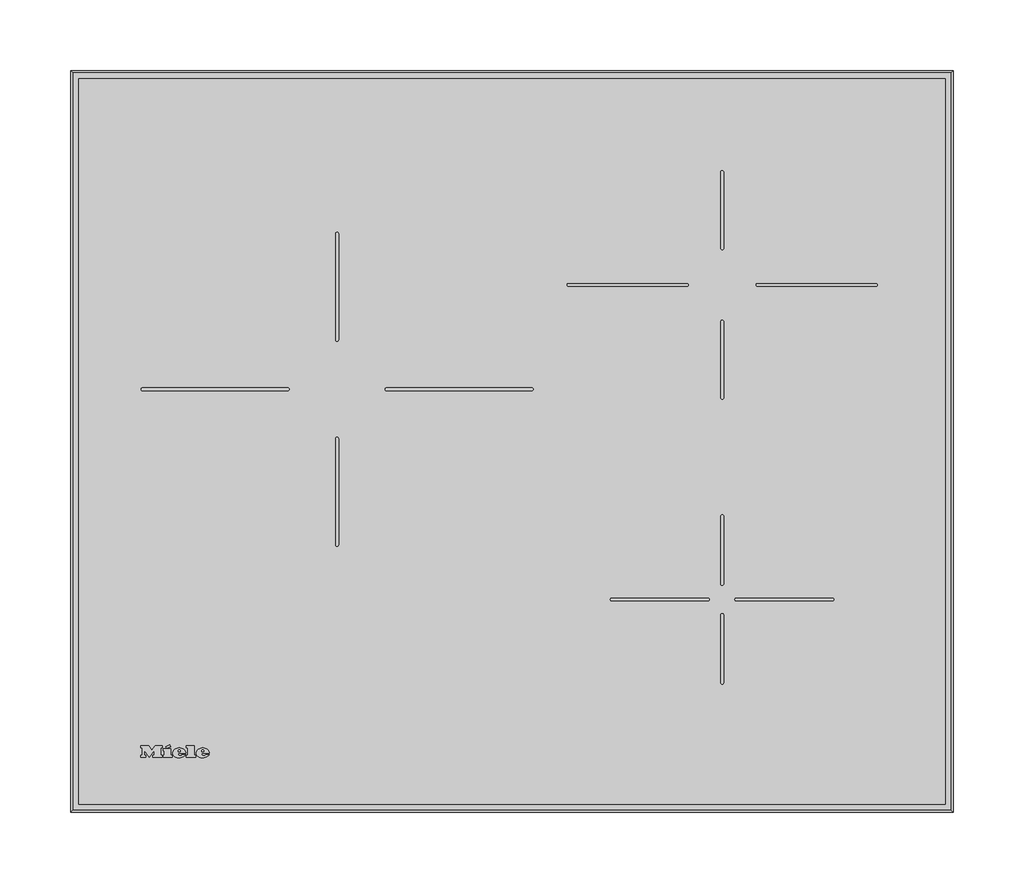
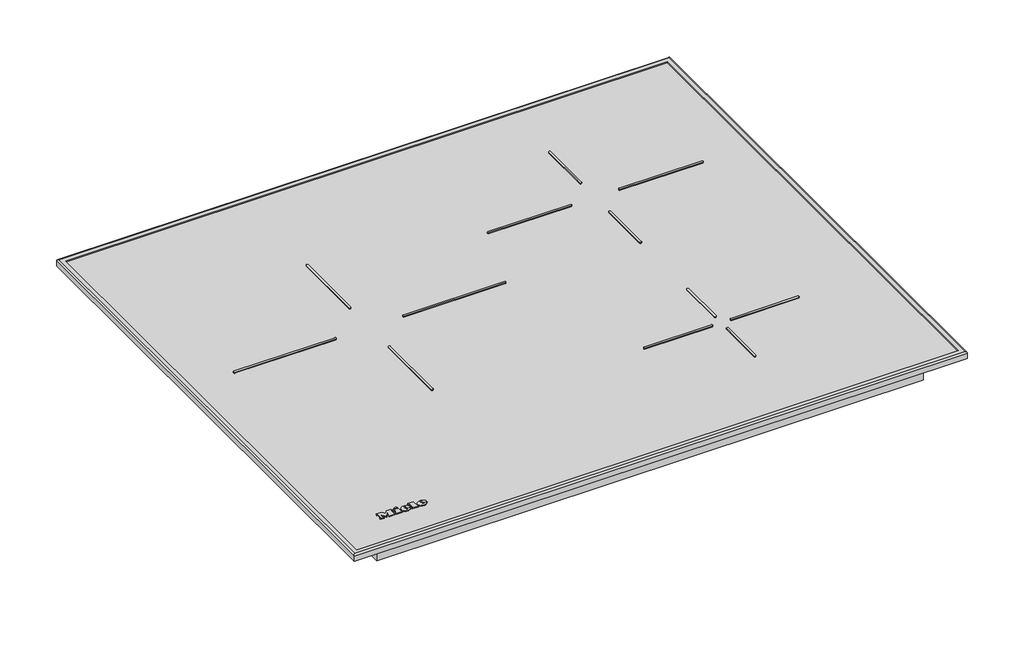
# Not in any storey: 1 proxy.
"""IFC4 building model written with IfcOpenShell, lengths in millimetres."""

import ifcopenshell
import ifcopenshell.guid

model = None  # the IFC model being written
_history = None  # IfcOwnerHistory: only IFC2X3 demands one
_inside = {}  # id of a spatial element -> (the spatial element, [elements in it])
_under = {}  # id of a project, library or spatial element -> (it, [spatial elements below it])
_declared = {}  # id of a project -> (the project, [libraries it declares])
_typed = {}  # id of a type object -> (the type object, [elements of that type])
_made_of = {}  # id of a material, layer set ... -> (it, [elements and type objects made of it])


def new_model(schema):
    """Start an empty IFC model of exactly this schema.

    Asked for "IFC4X3", IfcOpenShell would pick the latest addendum, in which some entities
    have other attributes; the version numbers below select the first issue.
    IFC2X3 requires an IfcOwnerHistory on every rooted entity: one is made here for all.
    """
    global model, _history
    if schema == "IFC4X3":
        model = ifcopenshell.file(schema_version=(4, 3, 0, 0))
    else:
        model = ifcopenshell.file(schema=schema)
    _inside.clear()
    _under.clear()
    _declared.clear()
    _typed.clear()
    _made_of.clear()
    _history = None
    if model.schema == "IFC2X3":
        org = make("IfcOrganization", Name="unknown")
        user = make(
            "IfcPersonAndOrganization",
            ThePerson=make("IfcPerson", FamilyName="unknown"),
            TheOrganization=org,
        )
        app = make(
            "IfcApplication",
            ApplicationDeveloper=org,
            Version="unknown",
            ApplicationFullName="unknown",
            ApplicationIdentifier="unknown",
        )
        _history = make(
            "IfcOwnerHistory",
            OwningUser=user,
            OwningApplication=app,
            ChangeAction="ADDED",
            CreationDate=0,
        )
    return model


def make(cls, **values):
    """One entity of the class cls with the attributes given. An attribute that is None is left unset."""
    return model.create_entity(
        cls, **{name: value for name, value in values.items() if value is not None}
    )


def rooted(cls, **values):
    """An entity with a GlobalId (a new one), such as an element, a storey or a relation."""
    return make(cls, GlobalId=ifcopenshell.guid.new(), OwnerHistory=_history, **values)


def si_unit(unit_type, name, prefix=None):
    """IfcSIUnit, for example si_unit("LENGTHUNIT", "METRE", prefix="MILLI")."""
    return make("IfcSIUnit", UnitType=unit_type, Prefix=prefix, Name=name)


def assignment(units):
    """IfcUnitAssignment: the units of a project."""
    return None if units is None else make("IfcUnitAssignment", Units=units)


def point(xyz):
    """IfcCartesianPoint."""
    return None if xyz is None else make("IfcCartesianPoint", Coordinates=xyz)


def direction(xyz):
    """IfcDirection."""
    return None if xyz is None else make("IfcDirection", DirectionRatios=xyz)


def frame(location, z_axis=None, x_axis=None):
    """IfcAxis2Placement3D, a coordinate frame: its origin and axes. An axis left out is left unset."""
    return make(
        "IfcAxis2Placement3D",
        Location=point(location),
        Axis=direction(z_axis),
        RefDirection=direction(x_axis),
    )


def frame_2d(location, x_axis=None):
    """IfcAxis2Placement2D, a coordinate frame in the plane: its origin and x axis."""
    return make(
        "IfcAxis2Placement2D", Location=point(location), RefDirection=direction(x_axis)
    )


def origin():
    """The frame at (0, 0, 0) with its axes left unset."""
    return frame((0.0, 0.0, 0.0))


def origin_with_axes():
    """The frame at (0, 0, 0) with the z axis (0, 0, 1) and the x axis (1, 0, 0) written out."""
    return frame((0.0, 0.0, 0.0), z_axis=(0.0, 0.0, 1.0), x_axis=(1.0, 0.0, 0.0))


def place(relative_to, where):
    """IfcLocalPlacement: puts the frame where relative to a parent placement (None: the world)."""
    return make(
        "IfcLocalPlacement", PlacementRelTo=relative_to, RelativePlacement=where
    )


def context(
    kind, dimensions, precision=None, world=None, true_north=None, identifier=None
):
    """IfcGeometricRepresentationContext, for example the 3D "Model" context."""
    return make(
        "IfcGeometricRepresentationContext",
        ContextIdentifier=identifier,
        ContextType=kind,
        CoordinateSpaceDimension=dimensions,
        Precision=precision,
        WorldCoordinateSystem=world,
        TrueNorth=true_north,
    )


def project(units=None, contexts=None):
    """IfcProject with its units and contexts."""
    return rooted(
        "IfcProject",
        Name="project",
        RepresentationContexts=contexts,
        UnitsInContext=assignment(units),
    )


def spatial(cls, under=None, at=None, **own):
    """A site, building, storey or space (cls), placed at a placement, below another one or the project."""
    s = rooted(cls, ObjectPlacement=at, **own)
    if under is not None:
        _under.setdefault(under.id(), (under, []))[1].append(s)
    return s


def polyline(points):
    """IfcPolyline through the points."""
    return make("IfcPolyline", Points=[point(p) for p in points])


def circle_curve(where, radius):
    """IfcCircle in the frame where."""
    return make("IfcCircle", Position=where, Radius=radius)


def ellipse_curve(where, semi_axis1, semi_axis2):
    """IfcEllipse in the frame where."""
    return make(
        "IfcEllipse", Position=where, SemiAxis1=semi_axis1, SemiAxis2=semi_axis2
    )


def trimmed(basis, trim1, trim2, sense, master):
    """IfcTrimmedCurve: the piece of a basis curve between two trims."""
    return make(
        "IfcTrimmedCurve",
        BasisCurve=basis,
        Trim1=trim1,
        Trim2=trim2,
        SenseAgreement=sense,
        MasterRepresentation=master,
    )


def segment(curve, same_sense, transition):
    """IfcCompositeCurveSegment."""
    return make(
        "IfcCompositeCurveSegment",
        Transition=transition,
        SameSense=same_sense,
        ParentCurve=curve,
    )


def composite_curve(segments, self_intersect=None):
    """IfcCompositeCurve: segments joined end to end."""
    return make("IfcCompositeCurve", Segments=segments, SelfIntersect=self_intersect)


def outline(outer, holes=None, kind="AREA"):
    """IfcArbitraryClosedProfileDef: a profile drawn as a closed curve; with holes, ...WithVoids."""
    if holes is None:
        return make("IfcArbitraryClosedProfileDef", ProfileType=kind, OuterCurve=outer)
    return make(
        "IfcArbitraryProfileDefWithVoids",
        ProfileType=kind,
        OuterCurve=outer,
        InnerCurves=holes,
    )


def extrude(swept, where, along, depth):
    """IfcExtrudedAreaSolid: the profile swept, set in the frame where, extruded along a direction by depth."""
    return make(
        "IfcExtrudedAreaSolid",
        SweptArea=swept,
        Position=where,
        ExtrudedDirection=direction(along),
        Depth=depth,
    )


def shape(context_of_items, identifier, shape_type, items):
    """IfcShapeRepresentation: the items that make up one representation, for example the "Body"."""
    return make(
        "IfcShapeRepresentation",
        ContextOfItems=context_of_items,
        RepresentationIdentifier=identifier,
        RepresentationType=shape_type,
        Items=items,
    )


def source(mapping_origin, context_of_items, identifier, shape_type, items):
    """IfcRepresentationMap: a shape defined once, which mapped items show again and again."""
    return make(
        "IfcRepresentationMap",
        MappingOrigin=mapping_origin,
        MappedRepresentation=shape(context_of_items, identifier, shape_type, items),
    )


def transform(
    local_origin,
    x_axis=None,
    y_axis=None,
    z_axis=None,
    scale=None,
    scale2=None,
    scale3=None,
    uniform=True,
):
    """IfcCartesianTransformationOperator3D, or its non-uniform kind. x_axis, y_axis, z_axis: its Axis1, 2, 3."""
    if uniform:
        return make(
            "IfcCartesianTransformationOperator3D",
            Axis1=direction(x_axis),
            Axis2=direction(y_axis),
            LocalOrigin=point(local_origin),
            Scale=scale,
            Axis3=direction(z_axis),
        )
    return make(
        "IfcCartesianTransformationOperator3DnonUniform",
        Axis1=direction(x_axis),
        Axis2=direction(y_axis),
        LocalOrigin=point(local_origin),
        Scale=scale,
        Axis3=direction(z_axis),
        Scale2=scale2,
        Scale3=scale3,
    )


def mapped(mapping_source, mapping_target):
    """IfcMappedItem: shows the shape of a source again, moved by a transform."""
    return make(
        "IfcMappedItem", MappingSource=mapping_source, MappingTarget=mapping_target
    )


def made_of(thing, what):
    """Note that an element or type object is made of a material, layer set ...; save() writes the relation."""
    if what is not None:
        _made_of.setdefault(what.id(), (what, []))[1].append(thing)
    return thing


def element(
    cls,
    number,
    at=None,
    inside=None,
    cuts=None,
    type_object=None,
    material=None,
    context=None,
    identifier="Body",
    shape_type=None,
    held_by="IfcProductDefinitionShape",
    body=None,
    shapes=None,
    **own,
):
    """One element of the class cls, such as IfcWall. Its Tag is "e" and its number.

    at: its placement. inside: the storey or other place that contains it. cuts: it is an
    opening in that element (IfcRelVoidsElement). A single representation is given by context,
    identifier, shape_type and body (its items); several are given by shapes. held_by: the class
    of the entity that holds the representations. save() writes the other relations.
    """
    e = rooted(cls, Tag="e%d" % number, ObjectPlacement=at, **own)
    if body is not None:
        shapes = [shape(context, identifier, shape_type, body)]
    if shapes is not None:
        e.Representation = make(held_by, Representations=shapes)
    if inside is not None:
        _inside.setdefault(inside.id(), (inside, []))[1].append(e)
    if cuts is not None:
        rooted(
            "IfcRelVoidsElement", RelatingBuildingElement=cuts, RelatedOpeningElement=e
        )
    if type_object is not None:
        _typed.setdefault(type_object.id(), (type_object, []))[1].append(e)
    return made_of(e, material)


def aggregate(whole, parts):
    """IfcRelAggregates: a whole, such as a stair, and the parts it consists of."""
    return rooted("IfcRelAggregates", RelatingObject=whole, RelatedObjects=parts)


def save(model, path):
    """Write the relations noted so far, then the file.

    IfcRelAggregates (storeys below a building ...), IfcRelContainedInSpatialStructure (elements
    in a storey), IfcRelDefinesByType, IfcRelAssociatesMaterial and IfcRelDeclares: one each for
    every whole, place, type object, material and project.
    """
    for whole, parts in _under.values():
        aggregate(whole, parts)
    for where, things in _inside.values():
        rooted(
            "IfcRelContainedInSpatialStructure",
            RelatedElements=things,
            RelatingStructure=where,
        )
    for kind, things in _typed.values():
        rooted("IfcRelDefinesByType", RelatedObjects=things, RelatingType=kind)
    for what, things in _made_of.values():
        rooted("IfcRelAssociatesMaterial", RelatedObjects=things, RelatingMaterial=what)
    for by, libraries in _declared.values():
        rooted("IfcRelDeclares", RelatingContext=by, RelatedDefinitions=libraries)
    model.write(path)


def plane_surface(at):
    """IfcPlane: the flat surface through the origin of the frame at, square to its z axis."""
    return make("IfcPlane", Position=at)


def cylinder_surface(at, radius):
    """IfcCylindricalSurface: all points at the distance radius from the z axis of the frame at."""
    return make("IfcCylindricalSurface", Position=at, Radius=radius)


def revolved_surface(curve, axis_point, axis_direction):
    """IfcSurfaceOfRevolution: the curve turned about the line through axis_point along axis_direction."""
    return make(
        "IfcSurfaceOfRevolution",
        SweptCurve=make("IfcArbitraryOpenProfileDef", ProfileType="CURVE", Curve=curve),
        AxisPosition=make("IfcAxis1Placement", Location=point(axis_point), Axis=direction(axis_direction)),
    )


def extruded_surface(curve, direction_of_extrusion, depth):
    """IfcSurfaceOfLinearExtrusion: the curve pushed along a direction by depth."""
    return make(
        "IfcSurfaceOfLinearExtrusion",
        SweptCurve=make("IfcArbitraryOpenProfileDef", ProfileType="CURVE", Curve=curve),
        ExtrudedDirection=direction(direction_of_extrusion),
        Depth=depth,
    )


def advanced_brep(points, edges, surfaces, faces):
    """IfcAdvancedBrep: a solid bounded by faces that lie on surfaces and meet in shared edges.

    An edge is (start, end): straight between two places in points (the first is 0);
    or (start, end, curve); or (start, end, curve, False) where it runs against its curve.
    A face is (place in surfaces, loops), or (place, loops, False) where it looks against
    its surface's normal. A loop lists edges by number (the first is 1), with a minus sign
    where the edge is run from its end to its start. The first loop is the outer one.
    """
    corners = [point(p) for p in points]
    vertices = [make("IfcVertexPoint", VertexGeometry=c) for c in corners]
    made = []
    for start, end, *more in edges:
        made.append(
            make(
                "IfcEdgeCurve",
                EdgeStart=vertices[start],
                EdgeEnd=vertices[end],
                EdgeGeometry=more[0] if more else make("IfcPolyline", Points=[corners[start], corners[end]]),
                SameSense=more[1] if len(more) > 1 else True,
            )
        )
    hull = []
    for where, loops, *sense in faces:
        bounds = []
        for j, loop in enumerate(loops):
            ring = [make("IfcOrientedEdge", EdgeElement=made[abs(k) - 1], Orientation=k > 0) for k in loop]
            bounds.append(
                make(
                    "IfcFaceOuterBound" if j == 0 else "IfcFaceBound",
                    Bound=make("IfcEdgeLoop", EdgeList=ring),
                    Orientation=True,
                )
            )
        hull.append(make("IfcAdvancedFace", Bounds=bounds, FaceSurface=surfaces[where], SameSense=sense[0] if sense else True))
    return make("IfcAdvancedBrep", Outer=make("IfcClosedShell", CfsFaces=hull))


def specialty_equipment_f053b758(model_context):
    return source(origin(), model_context, "Body", "SolidModel", [
        advanced_brep(
        [(-219.911984, 41.066, 5.0000007), (-219.911984, 41.874, 5.0000007), (-214.559984, 41.874, 5.0000007), (-223.871984, 41.874, 5.0000007), (-221.671984, 39.17, 5.0000007), (-214.695984, 41.066, 5.0000007), (-217.111984, 41.066, 5.0000007), (-219.015984, 40.17, 5.0000007), (-219.911984, 42.898, 5.0000007), (-219.911984, 43.77, 5.0000007), (-218.543984, 43.77, 5.0000007), (-218.543984, 42.898, 5.0000007), (-219.911984, 41.066, 4.0000007), (-219.015984, 40.17, 4.0000007), (-217.111984, 41.066, 4.0000007), (-214.695984, 41.066, 4.0000007), (-221.671984, 39.17, 4.0000007), (-223.871984, 41.874, 4.0000007), (-214.559984, 41.874, 4.0000007), (-219.911984, 41.874, 4.0000007), (-219.911984, 42.898, 4.0000007), (-218.543984, 42.898, 4.0000007), (-218.543984, 43.77, 4.0000007), (-219.911984, 43.77, 4.0000007)],
        [
            (0, 1),
            (1, 2),
            (2, 3, ellipse_curve(frame((-219.215984, 41.874, 5.0000007), z_axis=(0.0, 0.0, 1.0), x_axis=(-1.0, 0.0, 0.0)), 4.656, 3.848)),
            (3, 4, circle_curve(frame((-220.7759404, 42.146, 5.0000007), z_axis=(0.0, 0.0, 1.0), x_axis=(0.0, -1.0, 0.0)), 3.1079688)),
            (4, 5, circle_curve(frame((-219.3091904, 44.258, 5.0000007), z_axis=(0.0, 0.0, 1.0), x_axis=(0.0, -1.0, 0.0)), 5.6098607)),
            (5, 6),
            (6, 7, circle_curve(frame((-218.6249252, 41.81, 5.0000007), z_axis=(0.0, 0.0, -1.0), x_axis=(0.0, -1.0, 0.0)), 1.6859795)),
            (7, 0, circle_curve(frame((-219.015984, 41.066, 5.0000007), z_axis=(0.0, 0.0, -1.0), x_axis=(0.0, -1.0, 0.0)), 0.896)),
            (8, 9),
            (9, 10, circle_curve(frame((-219.227984, 43.77, 5.0000007), z_axis=(0.0, 0.0, -1.0), x_axis=(0.0, -1.0, 0.0)), 0.684)),
            (10, 11),
            (11, 8),
            (12, 13, circle_curve(frame((-219.015984, 41.066, 4.0000007), z_axis=(0.0, 0.0, 1.0), x_axis=(0.0, -1.0, 0.0)), 0.896)),
            (13, 14, circle_curve(frame((-218.6249252, 41.81, 4.0000007), z_axis=(0.0, 0.0, 1.0), x_axis=(0.0, -1.0, 0.0)), 1.6859795)),
            (14, 15),
            (15, 16, circle_curve(frame((-219.3091904, 44.258, 4.0000007), z_axis=(0.0, 0.0, -1.0), x_axis=(0.0, -1.0, 0.0)), 5.6098607)),
            (16, 17, circle_curve(frame((-220.7759404, 42.146, 4.0000007), z_axis=(0.0, 0.0, -1.0), x_axis=(0.0, -1.0, 0.0)), 3.1079688)),
            (17, 18, ellipse_curve(frame((-219.215984, 41.874, 4.0000007), z_axis=(0.0, 0.0, -1.0), x_axis=(-1.0, 0.0, 0.0)), 4.656, 3.848)),
            (18, 19),
            (19, 12),
            (20, 21),
            (21, 22),
            (22, 23, circle_curve(frame((-219.227984, 43.77, 4.0000007), z_axis=(0.0, 0.0, 1.0), x_axis=(0.0, -1.0, 0.0)), 0.684)),
            (23, 20),
            (0, 12),
            (19, 1),
            (18, 2),
            (5, 15),
            (14, 6),
            (17, 3),
            (13, 7),
            (16, 4),
            (8, 20),
            (23, 9),
            (22, 10),
            (21, 11),
        ],
        [
            plane_surface(frame((-219.911984, 41.874, 5.0000007), z_axis=(0.0, 0.0, 1.0), x_axis=(0.0, 1.0, 0.0))),
            plane_surface(frame((-219.911984, 41.874, 4.0000007), z_axis=(0.0, 0.0, -1.0), x_axis=(0.0, -1.0, 0.0))),
            plane_surface(frame((-219.911984, 41.066, 5.0000007), z_axis=(1.0, 0.0, 0.0), x_axis=(0.0, 0.0, -1.0))),
            plane_surface(frame((-219.911984, 41.874, 5.0000007), z_axis=(0.0, -1.0, 0.0), x_axis=(0.0, 0.0, -1.0))),
            plane_surface(frame((-214.695984, 41.066, 5.0000007), z_axis=(0.0, 1.0, 0.0), x_axis=(0.0, 0.0, -1.0))),
            extruded_surface(trimmed(ellipse_curve(frame((-219.215984, 41.874, 3.0000007), z_axis=(0.0, 0.0, 1.0), x_axis=(-1.0, 0.0, 0.0)), 4.656, 3.848), [point((-214.559984, 41.874, 3.0000007))], [point((-223.871984, 41.874, 3.0000007))], True, "CARTESIAN"), (0.0, 0.0, 1.0), 1.0),
            revolved_surface(polyline([(-218.6249252, 40.1240205, 4.0000007), (-218.6249252, 40.1240205, 5.0000007)]), (-218.6249252, 41.81, 4.0000007), (0.0, 0.0, -1.0)),
            revolved_surface(polyline([(-219.015984, 40.17, 4.0000007), (-219.015984, 40.17, 5.0000007)]), (-219.015984, 41.066, 4.0000007), (0.0, 0.0, -1.0)),
            cylinder_surface(frame((-220.7759404, 42.146, 4.0000007), z_axis=(0.0, 0.0, 1.0), x_axis=(0.0, -1.0, 0.0)), 3.1079688),
            cylinder_surface(frame((-219.3091904, 44.258, 4.0000007), z_axis=(0.0, 0.0, 1.0), x_axis=(0.0, -1.0, 0.0)), 5.6098607),
            plane_surface(frame((-219.911984, 42.898, 5.0000007), z_axis=(1.0, 0.0, 0.0), x_axis=(0.0, 0.0, -1.0))),
            revolved_surface(polyline([(-219.227984, 43.086000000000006, 4.0000007), (-219.227984, 43.086000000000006, 5.0000007)]), (-219.227984, 43.77, 4.0000007), (0.0, 0.0, -1.0)),
            plane_surface(frame((-218.543984, 43.77, 5.0000007), z_axis=(-1.0, 0.0, 0.0), x_axis=(0.0, 0.0, -1.0))),
            plane_surface(frame((-218.543984, 42.898, 5.0000007), z_axis=(0.0, 1.0, 0.0), x_axis=(0.0, 0.0, -1.0))),
        ],
        [
            (0, [[1, 2, 3, 4, 5, 6, 7, 8], [9, 10, 11, 12]]),
            (1, [[13, 14, 15, 16, 17, 18, 19, 20], [21, 22, 23, 24]]),
            (2, [[-1, 25, -20, 26]]),
            (3, [[-2, -26, -19, 27]]),
            (4, [[-6, 28, -15, 29]]),
            (5, [[-3, -27, -18, 30]]),
            (6, [[-7, -29, -14, 31]]),
            (7, [[-8, -31, -13, -25]]),
            (8, [[-4, -30, -17, 32]]),
            (9, [[-5, -32, -16, -28]]),
            (10, [[-9, 33, -24, 34]]),
            (11, [[-10, -34, -23, 35]]),
            (12, [[-11, -35, -22, 36]]),
            (13, [[-12, -36, -21, -33]]),
        ],
    ),
        advanced_brep(
        [(-236.607984, 41.066, 5.0000007), (-236.607984, 41.874, 5.0000007), (-231.255984, 41.874, 5.0000007), (-240.567984, 41.874, 5.0000007), (-238.367984, 39.17, 5.0000007), (-231.391984, 41.066, 5.0000007), (-233.807984, 41.066, 5.0000007), (-235.711984, 40.17, 5.0000007), (-236.607984, 42.898, 5.0000007), (-236.607984, 43.77, 5.0000007), (-235.239984, 43.77, 5.0000007), (-235.239984, 42.898, 5.0000007), (-236.607984, 41.066, 4.0000007), (-235.711984, 40.17, 4.0000007), (-233.807984, 41.066, 4.0000007), (-231.391984, 41.066, 4.0000007), (-238.367984, 39.17, 4.0000007), (-240.567984, 41.874, 4.0000007), (-231.255984, 41.874, 4.0000007), (-236.607984, 41.874, 4.0000007), (-236.607984, 42.898, 4.0000007), (-235.239984, 42.898, 4.0000007), (-235.239984, 43.77, 4.0000007), (-236.607984, 43.77, 4.0000007)],
        [
            (0, 1),
            (1, 2),
            (2, 3, ellipse_curve(frame((-235.911984, 41.874, 5.0000007), z_axis=(0.0, 0.0, 1.0), x_axis=(-1.0, 0.0, 0.0)), 4.656, 3.848)),
            (3, 4, circle_curve(frame((-237.4719404, 42.146, 5.0000007), z_axis=(0.0, 0.0, 1.0), x_axis=(0.0, -1.0, 0.0)), 3.1079688)),
            (4, 5, circle_curve(frame((-236.0051904, 44.258, 5.0000007), z_axis=(0.0, 0.0, 1.0), x_axis=(0.0, -1.0, 0.0)), 5.6098607)),
            (5, 6),
            (6, 7, circle_curve(frame((-235.3209252, 41.81, 5.0000007), z_axis=(0.0, 0.0, -1.0), x_axis=(0.0, -1.0, 0.0)), 1.6859795)),
            (7, 0, circle_curve(frame((-235.711984, 41.066, 5.0000007), z_axis=(0.0, 0.0, -1.0), x_axis=(0.0, -1.0, 0.0)), 0.896)),
            (8, 9),
            (9, 10, circle_curve(frame((-235.923984, 43.77, 5.0000007), z_axis=(0.0, 0.0, -1.0), x_axis=(0.0, -1.0, 0.0)), 0.684)),
            (10, 11),
            (11, 8),
            (12, 13, circle_curve(frame((-235.711984, 41.066, 4.0000007), z_axis=(0.0, 0.0, 1.0), x_axis=(0.0, -1.0, 0.0)), 0.896)),
            (13, 14, circle_curve(frame((-235.3209252, 41.81, 4.0000007), z_axis=(0.0, 0.0, 1.0), x_axis=(0.0, -1.0, 0.0)), 1.6859795)),
            (14, 15),
            (15, 16, circle_curve(frame((-236.0051904, 44.258, 4.0000007), z_axis=(0.0, 0.0, -1.0), x_axis=(0.0, -1.0, 0.0)), 5.6098607)),
            (16, 17, circle_curve(frame((-237.4719404, 42.146, 4.0000007), z_axis=(0.0, 0.0, -1.0), x_axis=(0.0, -1.0, 0.0)), 3.1079688)),
            (17, 18, ellipse_curve(frame((-235.911984, 41.874, 4.0000007), z_axis=(0.0, 0.0, -1.0), x_axis=(-1.0, 0.0, 0.0)), 4.656, 3.848)),
            (18, 19),
            (19, 12),
            (20, 21),
            (21, 22),
            (22, 23, circle_curve(frame((-235.923984, 43.77, 4.0000007), z_axis=(0.0, 0.0, 1.0), x_axis=(0.0, -1.0, 0.0)), 0.684)),
            (23, 20),
            (0, 12),
            (19, 1),
            (18, 2),
            (5, 15),
            (14, 6),
            (17, 3),
            (13, 7),
            (16, 4),
            (8, 20),
            (23, 9),
            (22, 10),
            (21, 11),
        ],
        [
            plane_surface(frame((-236.607984, 41.874, 5.0000007), z_axis=(0.0, 0.0, 1.0), x_axis=(0.0, 1.0, 0.0))),
            plane_surface(frame((-236.607984, 41.874, 4.0000007), z_axis=(0.0, 0.0, -1.0), x_axis=(0.0, -1.0, 0.0))),
            plane_surface(frame((-236.607984, 41.066, 5.0000007), z_axis=(1.0, 0.0, 0.0), x_axis=(0.0, 0.0, -1.0))),
            plane_surface(frame((-236.607984, 41.874, 5.0000007), z_axis=(0.0, -1.0, 0.0), x_axis=(0.0, 0.0, -1.0))),
            plane_surface(frame((-231.391984, 41.066, 5.0000007), z_axis=(0.0, 1.0, 0.0), x_axis=(0.0, 0.0, -1.0))),
            extruded_surface(trimmed(ellipse_curve(frame((-235.911984, 41.874, 3.0000007), z_axis=(0.0, 0.0, 1.0), x_axis=(-1.0, 0.0, 0.0)), 4.656, 3.848), [point((-231.255984, 41.874, 3.0000007))], [point((-240.567984, 41.874, 3.0000007))], True, "CARTESIAN"), (0.0, 0.0, 1.0), 1.0),
            revolved_surface(polyline([(-235.3209252, 40.1240205, 4.0000007), (-235.3209252, 40.1240205, 5.0000007)]), (-235.3209252, 41.81, 4.0000007), (0.0, 0.0, -1.0)),
            revolved_surface(polyline([(-235.711984, 40.17, 4.0000007), (-235.711984, 40.17, 5.0000007)]), (-235.711984, 41.066, 4.0000007), (0.0, 0.0, -1.0)),
            cylinder_surface(frame((-237.4719404, 42.146, 4.0000007), z_axis=(0.0, 0.0, 1.0), x_axis=(0.0, -1.0, 0.0)), 3.1079688),
            cylinder_surface(frame((-236.0051904, 44.258, 4.0000007), z_axis=(0.0, 0.0, 1.0), x_axis=(0.0, -1.0, 0.0)), 5.6098607),
            plane_surface(frame((-236.607984, 42.898, 5.0000007), z_axis=(1.0, 0.0, 0.0), x_axis=(0.0, 0.0, -1.0))),
            revolved_surface(polyline([(-235.923984, 43.086000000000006, 4.0000007), (-235.923984, 43.086000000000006, 5.0000007)]), (-235.923984, 43.77, 4.0000007), (0.0, 0.0, -1.0)),
            plane_surface(frame((-235.239984, 43.77, 5.0000007), z_axis=(-1.0, 0.0, 0.0), x_axis=(0.0, 0.0, -1.0))),
            plane_surface(frame((-235.239984, 42.898, 5.0000007), z_axis=(0.0, 1.0, 0.0), x_axis=(0.0, 0.0, -1.0))),
        ],
        [
            (0, [[1, 2, 3, 4, 5, 6, 7, 8], [9, 10, 11, 12]]),
            (1, [[13, 14, 15, 16, 17, 18, 19, 20], [21, 22, 23, 24]]),
            (2, [[-1, 25, -20, 26]]),
            (3, [[-2, -26, -19, 27]]),
            (4, [[-6, 28, -15, 29]]),
            (5, [[-3, -27, -18, 30]]),
            (6, [[-7, -29, -14, 31]]),
            (7, [[-8, -31, -13, -25]]),
            (8, [[-4, -30, -17, 32]]),
            (9, [[-5, -32, -16, -28]]),
            (10, [[-9, 33, -24, 34]]),
            (11, [[-10, -34, -23, 35]]),
            (12, [[-11, -35, -22, 36]]),
            (13, [[-12, -36, -21, -33]]),
        ],
    ),
        extrude(outline(polyline([(-245.351984, 46.698), (-242.631984, 47.962), (-242.031984, 46.666), (-244.743984, 45.402), (-245.351984, 46.698)])), frame((0.0, 0.0, 4.0000007), z_axis=(0.0, 0.0, 1.0), x_axis=(1.0, 0.0, 0.0)), (0.0, 0.0, 1.0), 1.0),
        extrude(outline(polyline([(-247.327984, 45.226), (-241.943984, 45.226), (-241.943984, 40.514), (-241.015984, 40.514), (-241.015984, 39.17), (-247.327984, 39.17), (-247.327984, 40.514), (-246.375984, 40.514), (-246.375984, 43.794), (-247.327984, 43.794), (-247.327984, 45.226)])), frame((0.0, 0.0, 4.0000007), z_axis=(0.0, 0.0, 1.0), x_axis=(1.0, 0.0, 0.0)), (0.0, 0.0, 1.0), 1.0),
        extrude(outline(polyline([(-230.807984, 45.866), (-230.807984, 47.17), (-225.303984, 47.17), (-225.303984, 40.514), (-224.319984, 40.514), (-224.319984, 39.17), (-230.807984, 39.17), (-230.807984, 40.514), (-229.847984, 40.514), (-229.847984, 45.866), (-230.807984, 45.866)])), frame((0.0, 0.0, 4.0000007), z_axis=(0.0, 0.0, 1.0), x_axis=(1.0, 0.0, 0.0)), (0.0, 0.0, 1.0), 1.0),
        extrude(outline(polyline([(-263.271984, 45.866), (-263.271984, 47.17), (-257.695984, 47.17), (-255.351984, 44.17), (-253.015984, 47.17), (-248.143984, 47.17), (-248.143984, 45.866), (-249.159984, 45.866), (-249.159984, 40.514), (-248.143984, 40.514), (-248.143984, 39.17), (-254.527984, 39.17), (-254.527984, 40.514), (-253.543984, 40.514), (-253.543984, 43.9852223), (-257.135984, 39.17), (-260.711984, 43.9171247), (-260.711984, 40.514), (-259.751984, 40.514), (-259.751984, 39.17), (-263.271984, 39.17), (-263.271984, 40.514), (-262.303984, 40.514), (-262.303984, 45.866), (-263.271984, 45.866)])), frame((0.0, 0.0, 4.0000007), z_axis=(0.0, 0.0, 1.0), x_axis=(1.0, 0.0, 0.0)), (0.0, 0.0, 1.0), 1.0),
        extrude(outline(composite_curve([segment(polyline([(174.0, 375.0), (258.0, 375.0)]), True, "CONTINUOUS"), segment(trimmed(circle_curve(frame_2d((258.0, 374.0)), 1.0), [point((258.0, 375.0))], [point((258.0, 373.0))], False, "CARTESIAN"), True, "CONTINUOUS"), segment(polyline([(258.0, 373.0), (174.0, 373.0)]), True, "CONTINUOUS"), segment(trimmed(circle_curve(frame_2d((174.0, 374.0)), 1.0), [point((174.0, 373.0))], [point((174.0, 375.0))], False, "CARTESIAN"), True, "CONTINUOUS")], self_intersect=False)), frame((0.0, 0.0, 4.0000007), z_axis=(0.0, 0.0, 1.0), x_axis=(1.0, 0.0, 0.0)), (0.0, 0.0, 1.0), 1.0),
        extrude(outline(composite_curve([segment(trimmed(circle_curve(frame_2d((149.0, 454.0164244)), 1.0), [point((148.0, 454.0164244))], [point((150.0, 454.0164244))], False, "CARTESIAN"), True, "CONTINUOUS"), segment(polyline([(150.0, 454.0164244), (150.0, 400.0)]), True, "CONTINUOUS"), segment(trimmed(circle_curve(frame_2d((149.0, 400.0)), 1.0), [point((150.0, 400.0))], [point((148.0, 400.0))], False, "CARTESIAN"), True, "CONTINUOUS"), segment(polyline([(148.0, 400.0), (148.0, 454.0164244)]), True, "CONTINUOUS")], self_intersect=False)), frame((0.0, 0.0, 4.0000007), z_axis=(0.0, 0.0, 1.0), x_axis=(1.0, 0.0, 0.0)), (0.0, 0.0, 1.0), 1.0),
        extrude(outline(composite_curve([segment(trimmed(circle_curve(frame_2d((159.0, 151.0)), 1.0), [point((159.0, 150.0))], [point((159.0, 152.0))], False, "CARTESIAN"), True, "CONTINUOUS"), segment(polyline([(159.0, 152.0), (227.2574779, 152.0)]), True, "CONTINUOUS"), segment(trimmed(circle_curve(frame_2d((227.2574779, 151.0)), 1.0), [point((227.2574779, 152.0))], [point((227.2574779, 150.0))], False, "CARTESIAN"), True, "CONTINUOUS"), segment(polyline([(227.2574779, 150.0), (159.0, 150.0)]), True, "CONTINUOUS")], self_intersect=False)), frame((0.0, 0.0, 4.0000007), z_axis=(0.0, 0.0, 1.0), x_axis=(1.0, 0.0, 0.0)), (0.0, 0.0, 1.0), 1.0),
        extrude(outline(composite_curve([segment(polyline([(148.0, 92.0), (148.0, 140.0)]), True, "CONTINUOUS"), segment(trimmed(circle_curve(frame_2d((149.0, 140.0)), 1.0), [point((148.0, 140.0))], [point((150.0, 140.0))], False, "CARTESIAN"), True, "CONTINUOUS"), segment(polyline([(150.0, 140.0), (150.0, 92.0)]), True, "CONTINUOUS"), segment(trimmed(circle_curve(frame_2d((149.0, 92.0)), 1.0), [point((150.0, 92.0))], [point((148.0, 92.0))], False, "CARTESIAN"), True, "CONTINUOUS")], self_intersect=False)), frame((0.0, 0.0, 4.0000007), z_axis=(0.0, 0.0, 1.0), x_axis=(1.0, 0.0, 0.0)), (0.0, 0.0, 1.0), 1.0),
        extrude(outline(composite_curve([segment(polyline([(-125.0, 189.7404504), (-125.0, 265.0)]), True, "CONTINUOUS"), segment(trimmed(circle_curve(frame_2d((-124.0, 265.0)), 1.0), [point((-125.0, 265.0))], [point((-123.0, 265.0))], False, "CARTESIAN"), True, "CONTINUOUS"), segment(polyline([(-123.0, 265.0), (-123.0, 189.7404504)]), True, "CONTINUOUS"), segment(trimmed(circle_curve(frame_2d((-124.0, 189.7404504)), 1.0), [point((-123.0, 189.7404504))], [point((-125.0, 189.7404504))], False, "CARTESIAN"), True, "CONTINUOUS")], self_intersect=False)), frame((0.0, 0.0, 4.0000007), z_axis=(0.0, 0.0, 1.0), x_axis=(1.0, 0.0, 0.0)), (0.0, 0.0, 1.0), 1.0),
        extrude(outline(composite_curve([segment(trimmed(circle_curve(frame_2d((-89.0, 300.0)), 1.0), [point((-89.0, 299.0))], [point((-89.0, 301.0))], False, "CARTESIAN"), True, "CONTINUOUS"), segment(polyline([(-89.0, 301.0), (14.0, 301.0)]), True, "CONTINUOUS"), segment(trimmed(circle_curve(frame_2d((14.0, 300.0)), 1.0), [point((14.0, 301.0))], [point((14.0, 299.0))], False, "CARTESIAN"), True, "CONTINUOUS"), segment(polyline([(14.0, 299.0), (-89.0, 299.0)]), True, "CONTINUOUS")], self_intersect=False)), frame((0.0, 0.0, 4.0000007), z_axis=(0.0, 0.0, 1.0), x_axis=(1.0, 0.0, 0.0)), (0.0, 0.0, 1.0), 1.0),
        extrude(outline(composite_curve([segment(polyline([(148.0, 293.9835756), (148.0, 348.0)]), True, "CONTINUOUS"), segment(trimmed(circle_curve(frame_2d((149.0, 348.0)), 1.0), [point((148.0, 348.0))], [point((150.0, 348.0))], False, "CARTESIAN"), True, "CONTINUOUS"), segment(polyline([(150.0, 348.0), (150.0, 293.9835756)]), True, "CONTINUOUS"), segment(trimmed(circle_curve(frame_2d((149.0, 293.9835756)), 1.0), [point((150.0, 293.9835756))], [point((148.0, 293.9835756))], False, "CARTESIAN"), True, "CONTINUOUS")], self_intersect=False)), frame((0.0, 0.0, 4.0000007), z_axis=(0.0, 0.0, 1.0), x_axis=(1.0, 0.0, 0.0)), (0.0, 0.0, 1.0), 1.0),
        extrude(outline(composite_curve([segment(trimmed(circle_curve(frame_2d((124.0, 374.0)), 1.0), [point((124.0, 375.0))], [point((124.0, 373.0))], False, "CARTESIAN"), True, "CONTINUOUS"), segment(polyline([(124.0, 373.0), (40.0, 373.0)]), True, "CONTINUOUS"), segment(trimmed(circle_curve(frame_2d((40.0, 374.0)), 1.0), [point((40.0, 373.0))], [point((40.0, 375.0))], False, "CARTESIAN"), True, "CONTINUOUS"), segment(polyline([(40.0, 375.0), (124.0, 375.0)]), True, "CONTINUOUS")], self_intersect=False)), frame((0.0, 0.0, 4.0000007), z_axis=(0.0, 0.0, 1.0), x_axis=(1.0, 0.0, 0.0)), (0.0, 0.0, 1.0), 1.0),
        extrude(outline(composite_curve([segment(trimmed(circle_curve(frame_2d((149.0, 210.0)), 1.0), [point((148.0, 210.0))], [point((150.0, 210.0))], False, "CARTESIAN"), True, "CONTINUOUS"), segment(polyline([(150.0, 210.0), (150.0, 162.0)]), True, "CONTINUOUS"), segment(trimmed(circle_curve(frame_2d((149.0, 162.0)), 1.0), [point((150.0, 162.0))], [point((148.0, 162.0))], False, "CARTESIAN"), True, "CONTINUOUS"), segment(polyline([(148.0, 162.0), (148.0, 210.0)]), True, "CONTINUOUS")], self_intersect=False)), frame((0.0, 0.0, 4.0000007), z_axis=(0.0, 0.0, 1.0), x_axis=(1.0, 0.0, 0.0)), (0.0, 0.0, 1.0), 1.0),
        extrude(outline(composite_curve([segment(polyline([(139.0, 150.0), (70.7425221, 150.0)]), True, "CONTINUOUS"), segment(trimmed(circle_curve(frame_2d((70.7425221, 151.0)), 1.0), [point((70.7425221, 150.0))], [point((70.7425221, 152.0))], False, "CARTESIAN"), True, "CONTINUOUS"), segment(polyline([(70.7425221, 152.0), (139.0, 152.0)]), True, "CONTINUOUS"), segment(trimmed(circle_curve(frame_2d((139.0, 151.0)), 1.0), [point((139.0, 152.0))], [point((139.0, 150.0))], False, "CARTESIAN"), True, "CONTINUOUS")], self_intersect=False)), frame((0.0, 0.0, 4.0000007), z_axis=(0.0, 0.0, 1.0), x_axis=(1.0, 0.0, 0.0)), (0.0, 0.0, 1.0), 1.0),
        extrude(outline(composite_curve([segment(polyline([(-159.0, 299.0), (-262.0, 299.0)]), True, "CONTINUOUS"), segment(trimmed(circle_curve(frame_2d((-262.0, 300.0)), 1.0), [point((-262.0, 299.0))], [point((-262.0, 301.0))], False, "CARTESIAN"), True, "CONTINUOUS"), segment(polyline([(-262.0, 301.0), (-159.0, 301.0)]), True, "CONTINUOUS"), segment(trimmed(circle_curve(frame_2d((-159.0, 300.0)), 1.0), [point((-159.0, 301.0))], [point((-159.0, 299.0))], False, "CARTESIAN"), True, "CONTINUOUS")], self_intersect=False)), frame((0.0, 0.0, 4.0000007), z_axis=(0.0, 0.0, 1.0), x_axis=(1.0, 0.0, 0.0)), (0.0, 0.0, 1.0), 1.0),
        extrude(outline(composite_curve([segment(trimmed(circle_curve(frame_2d((-124.0, 410.2595496)), 1.0), [point((-125.0, 410.2595496))], [point((-123.0, 410.2595496))], False, "CARTESIAN"), True, "CONTINUOUS"), segment(polyline([(-123.0, 410.2595496), (-123.0, 335.0)]), True, "CONTINUOUS"), segment(trimmed(circle_curve(frame_2d((-124.0, 335.0)), 1.0), [point((-123.0, 335.0))], [point((-125.0, 335.0))], False, "CARTESIAN"), True, "CONTINUOUS"), segment(polyline([(-125.0, 335.0), (-125.0, 410.2595496)]), True, "CONTINUOUS")], self_intersect=False)), frame((0.0, 0.0, 4.0000007), z_axis=(0.0, 0.0, 1.0), x_axis=(1.0, 0.0, 0.0)), (0.0, 0.0, 1.0), 1.0),
        advanced_brep(
        [(313.0, 526.0, 0.0), (313.0, 526.0, 5.5271728), (313.0, 0.0, 5.5271728), (313.0, 0.0, 0.0), (311.5271728, 524.5271728, 5.8817013), (311.5271728, 524.5271728, 0.0), (311.5271728, 1.4728272, 0.0), (311.5271728, 1.4728272, 5.8817013), (307.2139587, 520.2139587, 7.0), (307.2139587, 520.2139587, 5.8817013), (307.2139587, 5.7860413, 5.8817013), (307.2139587, 5.7860413, 7.0), (311.5271728, 524.5271728, 7.0), (311.5271728, 1.4728272, 7.0), (-313.0, 0.0, 5.5271728), (-313.0, 0.0, 0.0), (-311.5271728, 1.4728272, 0.0), (-311.5271728, 1.4728272, 5.8817013), (-307.2139587, 5.7860413, 5.8817013), (-307.2139587, 5.7860413, 7.0), (-311.5271728, 1.4728272, 7.0), (-313.0, 526.0, 5.5271728), (-313.0, 526.0, 0.0), (-311.5271728, 524.5271728, 0.0), (-311.5271728, 524.5271728, 5.8817013), (-307.2139587, 520.2139587, 5.8817013), (-307.2139587, 520.2139587, 7.0), (-311.5271728, 524.5271728, 7.0)],
        [
            (0, 1),
            (1, 2),
            (2, 3),
            (3, 0),
            (4, 5),
            (5, 6),
            (6, 7),
            (7, 4),
            (8, 9),
            (9, 10),
            (10, 11),
            (11, 8),
            (1, 12, ellipse_curve(frame((311.5271728, 524.5271728, 5.5271728), z_axis=(0.7071067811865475, -0.7071067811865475, 0.0), x_axis=(0.7071067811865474, 0.7071067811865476, 0.0)), 2.0828921, 1.4728272)),
            (12, 13),
            (13, 2, ellipse_curve(frame((311.5271728, 1.4728272, 5.5271728), z_axis=(0.7071067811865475, 0.7071067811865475, 0.0), x_axis=(-0.7071067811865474, 0.7071067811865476, 0.0)), 2.0828921, 1.4728272)),
            (2, 14),
            (14, 15),
            (15, 3),
            (6, 16),
            (16, 17),
            (17, 7),
            (10, 18),
            (18, 19),
            (19, 11),
            (13, 20),
            (20, 14, ellipse_curve(frame((-311.5271728, 1.4728272, 5.5271728), z_axis=(0.7071067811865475, -0.7071067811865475, 0.0), x_axis=(0.7071067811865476, 0.7071067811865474, 0.0)), 2.0828921, 1.4728272)),
            (14, 21),
            (21, 22),
            (22, 15),
            (16, 23),
            (23, 24),
            (24, 17),
            (18, 25),
            (25, 26),
            (26, 19),
            (20, 27),
            (27, 21, ellipse_curve(frame((-311.5271728, 524.5271728, 5.5271728), z_axis=(-0.7071067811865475, -0.7071067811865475, 0.0), x_axis=(0.7071067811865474, -0.7071067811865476, 0.0)), 2.0828921, 1.4728272)),
            (21, 1),
            (0, 22),
            (5, 23),
            (4, 24),
            (9, 25),
            (8, 26),
            (12, 27),
        ],
        [
            plane_surface(frame((313.0, 526.0, 5.5271728), z_axis=(1.0, 0.0, 0.0), x_axis=(0.0, -1.0, 0.0))),
            plane_surface(frame((311.5271728, 524.5271728, 0.0), z_axis=(-1.0, 0.0, 0.0), x_axis=(0.0, -1.0, 0.0))),
            plane_surface(frame((307.2139587, 520.2139587, 5.8817013), z_axis=(-1.0, 0.0, 0.0), x_axis=(0.0, -1.0, 0.0))),
            cylinder_surface(frame((311.5271728, 526.0, 5.5271728), z_axis=(0.0, 1.0, 0.0), x_axis=(1.0, 0.0, 0.0)), 1.4728272),
            plane_surface(frame((313.0, 0.0, 5.5271728), z_axis=(0.0, -1.0, 0.0), x_axis=(-1.0, 0.0, 0.0))),
            plane_surface(frame((311.5271728, 1.4728272, 0.0), z_axis=(0.0, 1.0, 0.0), x_axis=(-1.0, 0.0, 0.0))),
            plane_surface(frame((307.2139587, 5.7860413, 5.8817013), z_axis=(0.0, 1.0, 0.0), x_axis=(-1.0, 0.0, 0.0))),
            cylinder_surface(frame((313.0, 1.4728272, 5.5271728), z_axis=(1.0, 0.0, 0.0), x_axis=(0.0, -1.0, 0.0)), 1.4728272),
            plane_surface(frame((-313.0, 0.0, 5.5271728), z_axis=(-1.0, 0.0, 0.0), x_axis=(0.0, 1.0, 0.0))),
            plane_surface(frame((-311.5271728, 1.4728272, 0.0), z_axis=(1.0, 0.0, 0.0), x_axis=(0.0, 1.0, 0.0))),
            plane_surface(frame((-307.2139587, 5.7860413, 5.8817013), z_axis=(1.0, 0.0, 0.0), x_axis=(0.0, 1.0, 0.0))),
            cylinder_surface(frame((-311.5271728, 0.0, 5.5271728), z_axis=(0.0, -1.0, 0.0), x_axis=(-1.0, 0.0, 0.0)), 1.4728272),
            plane_surface(frame((-313.0, 526.0, 5.5271728), z_axis=(0.0, 1.0, 0.0), x_axis=(1.0, 0.0, 0.0))),
            plane_surface(frame((-313.0, 526.0, 0.0), z_axis=(0.0, 0.0, -1.0), x_axis=(1.0, 0.0, 0.0))),
            plane_surface(frame((-311.5271728, 524.5271728, 0.0), z_axis=(0.0, -1.0, 0.0), x_axis=(1.0, 0.0, 0.0))),
            plane_surface(frame((-311.5271728, 524.5271728, 5.8817013), z_axis=(0.0, 0.0, -1.0), x_axis=(1.0, 0.0, 0.0))),
            plane_surface(frame((-307.2139587, 520.2139587, 5.8817013), z_axis=(0.0, -1.0, 0.0), x_axis=(1.0, 0.0, 0.0))),
            plane_surface(frame((-307.2139587, 520.2139587, 7.0), z_axis=(0.0, 0.0, 1.0), x_axis=(1.0, 0.0, 0.0))),
            cylinder_surface(frame((-313.0, 524.5271728, 5.5271728), z_axis=(-1.0, 0.0, 0.0), x_axis=(0.0, 1.0, 0.0)), 1.4728272),
        ],
        [
            (0, [[1, 2, 3, 4]]),
            (1, [[5, 6, 7, 8]]),
            (2, [[9, 10, 11, 12]]),
            (3, [[13, 14, 15, -2]]),
            (4, [[-3, 16, 17, 18]]),
            (5, [[-7, 19, 20, 21]]),
            (6, [[-11, 22, 23, 24]]),
            (7, [[-15, 25, 26, -16]]),
            (8, [[-17, 27, 28, 29]]),
            (9, [[-20, 30, 31, 32]]),
            (10, [[-23, 33, 34, 35]]),
            (11, [[-26, 36, 37, -27]]),
            (12, [[-28, 38, -1, 39]]),
            (13, [[-18, -29, -39, -4], [40, -30, -19, -6]]),
            (14, [[-31, -40, -5, 41]]),
            (15, [[-21, -32, -41, -8], [42, -33, -22, -10]]),
            (16, [[-34, -42, -9, 43]]),
            (17, [[44, -36, -25, -14], [-24, -35, -43, -12]]),
            (18, [[-37, -44, -13, -38]]),
        ],
    ),
        extrude(outline(polyline([(226.7938197, 483.0), (226.7938197, 365.7202614), (229.0, 365.7202614), (229.0, 79.0), (-64.0, 79.0), (-64.0, 483.0), (226.7938197, 483.0)])), frame((0.0, 0.0, -49.1723575), z_axis=(0.0, 0.0, 1.0), x_axis=(1.0, 0.0, 0.0)), (0.0, 0.0, 1.0), 26.1723575),
        extrude(outline(polyline([(279.0, 507.0), (279.0, 19.0), (-279.0, 19.0), (-279.0, 507.0), (279.0, 507.0)])), frame((0.0, 0.0, -23.0), z_axis=(0.0, 0.0, 1.0), x_axis=(1.0, 0.0, 0.0)), (0.0, 0.0, 1.0), 23.0),
        extrude(outline(polyline([(309.75, 523.0), (309.75, 3.0), (-309.75, 3.0), (-309.75, 523.0), (309.75, 523.0)])), origin_with_axes(), (0.0, 0.0, 1.0), 4.0000007),
        extrude(outline(polyline([(229.6227397, 386.1708126), (237.0, 386.1708126), (237.0, 384.9151088), (230.8784436, 384.9151088), (230.8784436, 381.6188861), (236.529111, 381.6188861), (236.529111, 380.3631822), (230.8784436, 380.3631822), (230.8784436, 377.3808855), (236.843037, 377.3808855), (236.843037, 376.1251816), (229.6227397, 376.1251816), (229.6227397, 386.1708126)])), frame((0.0, 0.0, -55.9814925), z_axis=(0.0, 0.0, 1.0), x_axis=(1.0, 0.0, 0.0)), (0.0, 0.0, 1.0), 1.0),
        extrude(outline(polyline([(238.8835558, 386.1708126), (245.1620752, 386.1708126), (245.1620752, 384.9151088), (240.1392597, 384.9151088), (240.1392597, 376.1251816), (238.8835558, 376.1251816), (238.8835558, 386.1708126)])), frame((0.0, 0.0, -55.9814925), z_axis=(0.0, 0.0, 1.0), x_axis=(1.0, 0.0, 0.0)), (0.0, 0.0, 1.0), 1.0),
        advanced_brep(
        [(214.0, 381.1708126, -42.9814925), (214.0, 381.1708126, -26.9814925), (228.7476293, 381.1708126, -42.9814925), (244.7476293, 381.1708126, -26.9814925), (228.7476293, 381.1708126, -54.9814925), (244.7476293, 381.1708126, -54.9814925)],
        [
            (0, 1, circle_curve(frame((214.0, 381.1708126, -34.9814925), z_axis=(-1.0, 0.0, 0.0), x_axis=(0.0, 0.0, 1.0)), 8.0)),
            (1, 0, circle_curve(frame((214.0, 381.1708126, -34.9814925), z_axis=(-1.0, 0.0, 0.0), x_axis=(0.0, 0.0, 1.0)), 8.0)),
            (0, 2),
            (2, 3, ellipse_curve(frame((236.7476293, 381.1708126, -34.9814925), z_axis=(-0.7071067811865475, 0.0, 0.7071067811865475), x_axis=(-0.7071067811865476, 0.0, -0.7071067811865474)), 11.3137085, 8.0)),
            (3, 1),
            (3, 2, ellipse_curve(frame((236.7476293, 381.1708126, -34.9814925), z_axis=(-0.7071067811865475, 0.0, 0.7071067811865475), x_axis=(-0.7071067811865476, 0.0, -0.7071067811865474)), 11.3137085, 8.0)),
            (4, 5, circle_curve(frame((236.7476293, 381.1708126, -54.9814925), z_axis=(0.0, 0.0, -1.0), x_axis=(1.0, 0.0, 0.0)), 8.0)),
            (5, 4, circle_curve(frame((236.7476293, 381.1708126, -54.9814925), z_axis=(0.0, 0.0, -1.0), x_axis=(1.0, 0.0, 0.0)), 8.0)),
            (2, 4),
            (5, 3),
        ],
        [
            plane_surface(frame((214.0, 0.0, -34.9814925), z_axis=(-1.0, 0.0, 0.0), x_axis=(0.0, -1.0, 0.0))),
            cylinder_surface(frame((214.0, 381.1708126, -34.9814925), z_axis=(-1.0, 0.0, 0.0), x_axis=(0.0, 0.0, 1.0)), 8.0),
            plane_surface(frame((236.7476293, 0.0, -54.9814925), z_axis=(0.0, 0.0, -1.0), x_axis=(0.0, -1.0, 0.0))),
            cylinder_surface(frame((236.7476293, 381.1708126, -34.9814925), z_axis=(0.0, 0.0, 1.0), x_axis=(1.0, 0.0, 0.0)), 8.0),
        ],
        [
            (0, [[1, 2]]),
            (1, [[-1, 3, 4, 5]]),
            (1, [[-2, -5, 6, -3]]),
            (2, [[7, 8]]),
            (3, [[-4, 9, -8, 10]]),
            (3, [[-6, -10, -7, -9]]),
        ],
    ),
    ])


model = new_model("IFC4")

# Units and contexts
model_context = context("Model", 3, world=origin())
ifc_project = project(units=[si_unit("LENGTHUNIT", "METRE", prefix="MILLI")], contexts=[model_context])

# Site, building
site = spatial("IfcSite", under=ifc_project)
building = spatial("IfcBuilding", under=site)

# Proxy
placement = place(None, origin())
specialty_equipment_shape = specialty_equipment_f053b758(model_context)
element("IfcBuildingElementProxy", 1, Name="12418210_IB_KM7360FR : 26736010_IB_12418210_KM7360FR", ObjectType="12418210_IB_KM7360FR : 26736010_IB_12418210_KM7360FR", at=placement, inside=building, context=model_context, shape_type="MappedRepresentation", body=[
    mapped(specialty_equipment_shape, transform((0.0, 0.0, 0.0), x_axis=(1.0, 0.0, 0.0), y_axis=(0.0, 1.0, 0.0), z_axis=(0.0, 0.0, 1.0))),
])

save(model, "model.ifc")
